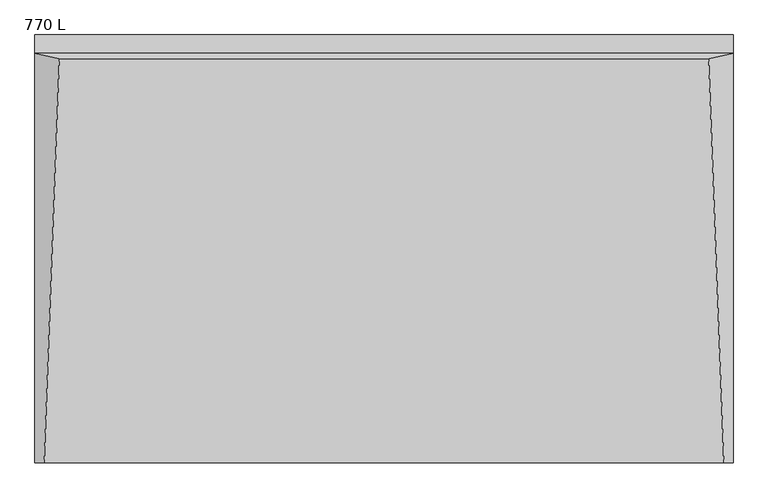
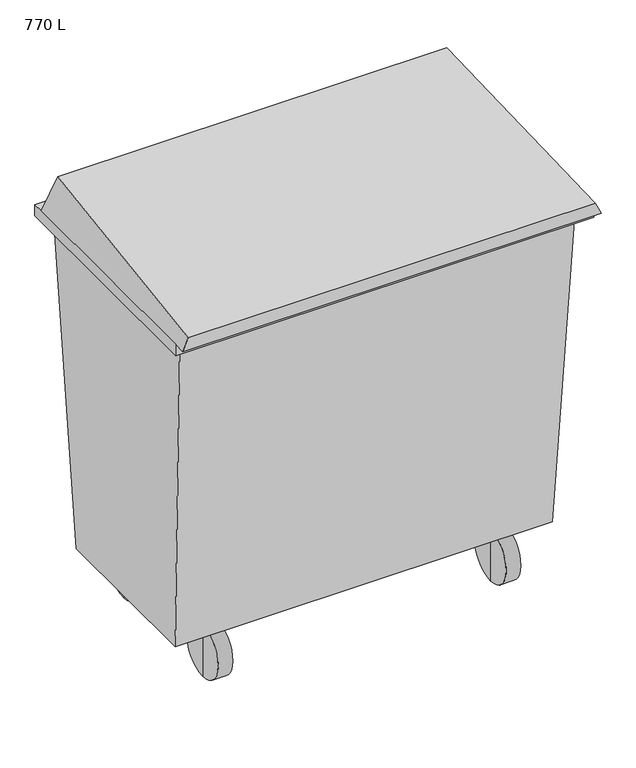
"""IFC4 building model written with IfcOpenShell, lengths in millimetres: proxy geometry, Generic Waste Container (4 wheels) : 770 L."""

from ifc_helpers import new_model, si_unit, frame, origin, place, context, project, spatial, circle_curve, faceted_brep, source, transform, mapped, element, save
from ifc_brep_helpers import plane_surface, cylinder_surface, advanced_brep


def proxy_770_l_12c313d7(model_context):
    return source(origin(), model_context, "Body", "SolidModel", [
        faceted_brep([(570.8165459, -239.7445786, 165.0), (-570.8165459, -239.7445786, 165.0), (-570.8165459, 277.7445786, 165.0), (570.8165459, 277.7445786, 165.0), (-597.5, 349.0, 1184.0), (597.5, 349.0, 1184.0), (-597.5, -311.0, 1184.0), (597.5, -311.0, 1184.0)], [[[0, 1, 2, 3]], [[3, 2, 4, 5]], [[5, 4, 6, 7]], [[1, 0, 7, 6]], [[2, 1, 6, 4]], [[0, 3, 5, 7]]]),
        faceted_brep([(-632.5, 354.5, 1220.0), (-632.5, -349.5, 1220.0), (-632.5, -387.5, 1220.0), (-615.58131, -387.5, 1258.0), (-587.9771315, 344.5, 1320.0), (632.5, -349.5, 1220.0), (632.5, 354.5, 1220.0), (587.9771315, 344.5, 1320.0), (615.58131, -387.5, 1258.0), (632.5, -387.5, 1220.0), (632.5, 387.5, 1184.0), (632.5, 387.5, 1220.0), (632.5, -349.5, 1184.0), (-632.5, 387.5, 1184.0), (-632.5, -349.5, 1184.0), (-632.5, 387.5, 1220.0)], [[[0, 1, 2, 3, 4]], [[5, 6, 7, 8, 9]], [[10, 11, 6, 5, 12]], [[13, 14, 1, 0, 15]], [[11, 10, 13, 15]], [[6, 11, 15, 0]], [[2, 9, 8, 3]], [[9, 2, 1, 5]], [[12, 5, 1, 14]], [[10, 12, 14, 13]], [[6, 0, 4, 7]], [[3, 8, 7, 4]]]),
        advanced_brep(
        [(457.5, -187.5, 0.0), (457.5, -187.5, 165.0), (457.5, -187.5, 82.5), (413.5, -187.5, 0.0), (413.5, -187.5, 165.0), (413.5, -187.5, 82.5)],
        [
            (0, 1, circle_curve(frame((457.5, -187.5, 82.5), z_axis=(1.0, 0.0, 0.0), x_axis=(0.0, 0.0, 1.0)), 82.5)),
            (1, 2),
            (2, 0),
            (1, 0, circle_curve(frame((457.5, -187.5, 82.5), z_axis=(1.0, 0.0, 0.0), x_axis=(0.0, 0.0, 1.0)), 82.5)),
            (3, 4, circle_curve(frame((413.5, -187.5, 82.5), z_axis=(1.0, 0.0, 0.0), x_axis=(0.0, 0.0, 1.0)), 82.5)),
            (4, 1),
            (0, 3),
            (4, 3, circle_curve(frame((413.5, -187.5, 82.5), z_axis=(1.0, 0.0, 0.0), x_axis=(0.0, 0.0, 1.0)), 82.5)),
            (5, 4),
            (3, 5),
        ],
        [
            plane_surface(frame((457.5, -187.5, 82.5), z_axis=(1.0, 0.0, 0.0), x_axis=(0.0, 0.0, 1.0))),
            cylinder_surface(frame((236.9958592, -187.5, 82.5), z_axis=(-1.0, 0.0, 0.0), x_axis=(0.0, 0.0, 1.0)), 82.5),
            plane_surface(frame((413.5, -187.5, 82.5), z_axis=(-1.0, 0.0, 0.0), x_axis=(0.0, 0.0, 1.0))),
        ],
        [
            (0, [[1, 2, 3]]),
            (0, [[4, -3, -2]]),
            (1, [[5, 6, -1, 7]]),
            (1, [[8, -7, -4, -6]]),
            (2, [[9, -5, 10]]),
            (2, [[-10, -8, -9]]),
        ],
    ),
        advanced_brep(
        [(-413.5, -187.5, 0.0), (-413.5, -187.5, 165.0), (-413.5, -187.5, 82.5), (-457.5, -187.5, 0.0), (-457.5, -187.5, 165.0), (-457.5, -187.5, 82.5)],
        [
            (0, 1, circle_curve(frame((-413.5, -187.5, 82.5), z_axis=(1.0, 0.0, 0.0), x_axis=(0.0, 0.0, 1.0)), 82.5)),
            (1, 2),
            (2, 0),
            (1, 0, circle_curve(frame((-413.5, -187.5, 82.5), z_axis=(1.0, 0.0, 0.0), x_axis=(0.0, 0.0, 1.0)), 82.5)),
            (3, 4, circle_curve(frame((-457.5, -187.5, 82.5), z_axis=(1.0, 0.0, 0.0), x_axis=(0.0, 0.0, 1.0)), 82.5)),
            (4, 1),
            (0, 3),
            (4, 3, circle_curve(frame((-457.5, -187.5, 82.5), z_axis=(1.0, 0.0, 0.0), x_axis=(0.0, 0.0, 1.0)), 82.5)),
            (5, 4),
            (3, 5),
        ],
        [
            plane_surface(frame((-413.5, -187.5, 82.5), z_axis=(1.0, 0.0, 0.0), x_axis=(0.0, 0.0, 1.0))),
            cylinder_surface(frame((236.9958592, -187.5, 82.5), z_axis=(-1.0, 0.0, 0.0), x_axis=(0.0, 0.0, 1.0)), 82.5),
            plane_surface(frame((-457.5, -187.5, 82.5), z_axis=(-1.0, 0.0, 0.0), x_axis=(0.0, 0.0, 1.0))),
        ],
        [
            (0, [[1, 2, 3]]),
            (0, [[4, -3, -2]]),
            (1, [[5, 6, -1, 7]]),
            (1, [[8, -7, -4, -6]]),
            (2, [[9, -5, 10]]),
            (2, [[-10, -8, -9]]),
        ],
    ),
        advanced_brep(
        [(457.5, 225.5, 0.0), (457.5, 225.5, 165.0), (457.5, 225.5, 82.5), (413.5, 225.5, 0.0), (413.5, 225.5, 165.0), (413.5, 225.5, 82.5)],
        [
            (0, 1, circle_curve(frame((457.5, 225.5, 82.5), z_axis=(1.0, 0.0, 0.0), x_axis=(0.0, 0.0, 1.0)), 82.5)),
            (1, 2),
            (2, 0),
            (1, 0, circle_curve(frame((457.5, 225.5, 82.5), z_axis=(1.0, 0.0, 0.0), x_axis=(0.0, 0.0, 1.0)), 82.5)),
            (3, 4, circle_curve(frame((413.5, 225.5, 82.5), z_axis=(1.0, 0.0, 0.0), x_axis=(0.0, 0.0, 1.0)), 82.5)),
            (4, 1),
            (0, 3),
            (4, 3, circle_curve(frame((413.5, 225.5, 82.5), z_axis=(1.0, 0.0, 0.0), x_axis=(0.0, 0.0, 1.0)), 82.5)),
            (5, 4),
            (3, 5),
        ],
        [
            plane_surface(frame((457.5, 225.5, 82.5), z_axis=(1.0, 0.0, 0.0), x_axis=(0.0, 0.0, 1.0))),
            cylinder_surface(frame((221.8525418, 225.5, 82.5), z_axis=(-1.0, 0.0, 0.0), x_axis=(0.0, 0.0, 1.0)), 82.5),
            plane_surface(frame((413.5, 225.5, 82.5), z_axis=(-1.0, 0.0, 0.0), x_axis=(0.0, 0.0, 1.0))),
        ],
        [
            (0, [[1, 2, 3]]),
            (0, [[4, -3, -2]]),
            (1, [[5, 6, -1, 7]]),
            (1, [[8, -7, -4, -6]]),
            (2, [[9, -5, 10]]),
            (2, [[-10, -8, -9]]),
        ],
    ),
        advanced_brep(
        [(-413.5, 225.5, 0.0), (-413.5, 225.5, 165.0), (-413.5, 225.5, 82.5), (-457.5, 225.5, 0.0), (-457.5, 225.5, 165.0), (-457.5, 225.5, 82.5)],
        [
            (0, 1, circle_curve(frame((-413.5, 225.5, 82.5), z_axis=(1.0, 0.0, 0.0), x_axis=(0.0, 0.0, 1.0)), 82.5)),
            (1, 2),
            (2, 0),
            (1, 0, circle_curve(frame((-413.5, 225.5, 82.5), z_axis=(1.0, 0.0, 0.0), x_axis=(0.0, 0.0, 1.0)), 82.5)),
            (3, 4, circle_curve(frame((-457.5, 225.5, 82.5), z_axis=(1.0, 0.0, 0.0), x_axis=(0.0, 0.0, 1.0)), 82.5)),
            (4, 1),
            (0, 3),
            (4, 3, circle_curve(frame((-457.5, 225.5, 82.5), z_axis=(1.0, 0.0, 0.0), x_axis=(0.0, 0.0, 1.0)), 82.5)),
            (5, 4),
            (3, 5),
        ],
        [
            plane_surface(frame((-413.5, 225.5, 82.5), z_axis=(1.0, 0.0, 0.0), x_axis=(0.0, 0.0, 1.0))),
            cylinder_surface(frame((221.8525418, 225.5, 82.5), z_axis=(-1.0, 0.0, 0.0), x_axis=(0.0, 0.0, 1.0)), 82.5),
            plane_surface(frame((-457.5, 225.5, 82.5), z_axis=(-1.0, 0.0, 0.0), x_axis=(0.0, 0.0, 1.0))),
        ],
        [
            (0, [[1, 2, 3]]),
            (0, [[4, -3, -2]]),
            (1, [[5, 6, -1, 7]]),
            (1, [[8, -7, -4, -6]]),
            (2, [[9, -5, 10]]),
            (2, [[-10, -8, -9]]),
        ],
    ),
    ])


if __name__ == "__main__":
    model = new_model("IFC4")
    model_context = context("Model", 3, world=origin())
    ifc_project = project(units=[si_unit("LENGTHUNIT", "METRE", prefix="MILLI")], contexts=[model_context])
    site = spatial("IfcSite", under=ifc_project)
    building = spatial("IfcBuilding", under=site)
    placement = place(None, origin())
    proxy_770_l_shape = proxy_770_l_12c313d7(model_context)
    element("IfcBuildingElementProxy", 1, Name="Generic Waste Container (4 wheels) : 770 L", ObjectType="Generic Waste Container (4 wheels) : 770 L", at=placement, inside=building, context=model_context, shape_type="MappedRepresentation", body=[
        mapped(proxy_770_l_shape, transform((0.0, 0.0, 0.0), x_axis=(1.0, 0.0, 0.0), y_axis=(0.0, 1.0, 0.0), z_axis=(0.0, 0.0, 1.0))),
    ])
    save(model, "model.ifc")
